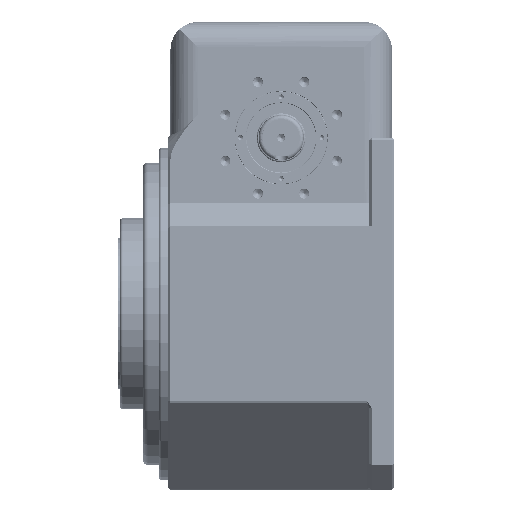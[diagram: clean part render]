
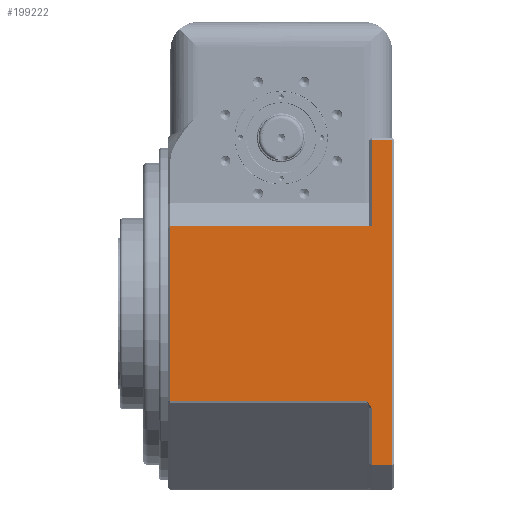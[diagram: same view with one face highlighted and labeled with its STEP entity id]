
A CAD part, left-side view. The second image highlights one B-rep face of the part: STEP entity #199222.
In plain terms, the highlighted planar face has unit normal (-1, 0, 0).
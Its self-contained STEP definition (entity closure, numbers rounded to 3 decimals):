
#2723 = DIRECTION ( 'NONE',  ( 0., -1., 0. ) ) ;
#6002 = VERTEX_POINT ( 'NONE', #79940 ) ;
#6548 = EDGE_CURVE ( 'NONE', #84875, #162055, #92885, .T. ) ;
#11295 = ORIENTED_EDGE ( 'NONE', *, *, #169668, .T. ) ;
#14139 = LINE ( 'NONE', #141672, #197038 ) ;
#15436 = CARTESIAN_POINT ( 'NONE',  ( -350., 45., -300. ) ) ;
#16903 = DIRECTION ( 'NONE',  ( 0., -1., 0. ) ) ;
#23864 = CARTESIAN_POINT ( 'NONE',  ( -350., 45., -300. ) ) ;
#25613 = VERTEX_POINT ( 'NONE', #144503 ) ;
#29790 = VERTEX_POINT ( 'NONE', #42233 ) ;
#30012 = CARTESIAN_POINT ( 'NONE',  ( -350., 450., -300. ) ) ;
#31872 = EDGE_CURVE ( 'NONE', #162055, #114772, #113097, .T. ) ;
#36855 = ORIENTED_EDGE ( 'NONE', *, *, #6548, .T. ) ;
#40520 = ORIENTED_EDGE ( 'NONE', *, *, #120721, .T. ) ;
#40880 = DIRECTION ( 'NONE',  ( 0., 0., -1. ) ) ;
#42233 = CARTESIAN_POINT ( 'NONE',  ( -350., 55., -172.929 ) ) ;
#44169 = VECTOR ( 'NONE', #73059, 1000. ) ;
#45724 = DIRECTION ( 'NONE',  ( 1., 0., 0. ) ) ;
#45827 = EDGE_CURVE ( 'NONE', #29790, #84875, #69968, .T. ) ;
#46854 = CARTESIAN_POINT ( 'NONE',  ( -350., 50., 175. ) ) ;
#47518 = DIRECTION ( 'NONE',  ( 0., 1., 0. ) ) ;
#49461 = DIRECTION ( 'NONE',  ( 0., 0., -1. ) ) ;
#50279 = CARTESIAN_POINT ( 'NONE',  ( -350., 450., -300. ) ) ;
#53614 = ORIENTED_EDGE ( 'NONE', *, *, #165462, .T. ) ;
#58122 = LINE ( 'NONE', #125373, #197051 ) ;
#66669 = CARTESIAN_POINT ( 'NONE',  ( -350., 445., 175. ) ) ;
#69968 = B_SPLINE_CURVE_WITH_KNOTS ( 'NONE', 1,
 ( #147696, #134056 ),
 .UNSPECIFIED., .F., .F.,
 ( 2, 2 ),
 ( 0., 0.017 ),
 .UNSPECIFIED. ) ;
#70667 = EDGE_CURVE ( 'NONE', #6002, #122987, #198813, .T. ) ;
#71144 = ORIENTED_EDGE ( 'NONE', *, *, #199489, .T. ) ;
#73059 = DIRECTION ( 'NONE',  ( 0., 0., -1. ) ) ;
#75641 = CARTESIAN_POINT ( 'NONE',  ( -350., 445., -172.929 ) ) ;
#79940 = CARTESIAN_POINT ( 'NONE',  ( -350., 45., 175. ) ) ;
#83733 = EDGE_CURVE ( 'NONE', #114772, #25613, #14139, .T. ) ;
#84875 = VERTEX_POINT ( 'NONE', #195135 ) ;
#88229 = VECTOR ( 'NONE', #49461, 1000. ) ;
#92885 = LINE ( 'NONE', #23864, #185472 ) ;
#94906 = VERTEX_POINT ( 'NONE', #167399 ) ;
#98070 = CARTESIAN_POINT ( 'NONE',  ( -350., 450., -172.929 ) ) ;
#107680 = PLANE ( 'NONE',  #201398 ) ;
#112902 = VECTOR ( 'NONE', #16903, 1000. ) ;
#113097 = LINE ( 'NONE', #50279, #112902 ) ;
#114772 = VERTEX_POINT ( 'NONE', #157277 ) ;
#120721 = EDGE_CURVE ( 'NONE', #163826, #29790, #130618, .T. ) ;
#122987 = VERTEX_POINT ( 'NONE', #66669 ) ;
#125373 = CARTESIAN_POINT ( 'NONE',  ( -350., 450., 345. ) ) ;
#126039 = DIRECTION ( 'NONE',  ( 0., 1., 0. ) ) ;
#130618 = LINE ( 'NONE', #98070, #179408 ) ;
#134056 = CARTESIAN_POINT ( 'NONE',  ( -350., 45., -187.071 ) ) ;
#139165 = LINE ( 'NONE', #152071, #44169 ) ;
#141672 = CARTESIAN_POINT ( 'NONE',  ( -350., 5., -300. ) ) ;
#144503 = CARTESIAN_POINT ( 'NONE',  ( -350., 5., 345. ) ) ;
#147696 = CARTESIAN_POINT ( 'NONE',  ( -350., 55., -172.929 ) ) ;
#152071 = CARTESIAN_POINT ( 'NONE',  ( -350., 445., -175. ) ) ;
#155582 = ORIENTED_EDGE ( 'NONE', *, *, #83733, .T. ) ;
#157277 = CARTESIAN_POINT ( 'NONE',  ( -350., 5., -300. ) ) ;
#161220 = ORIENTED_EDGE ( 'NONE', *, *, #45827, .T. ) ;
#162055 = VERTEX_POINT ( 'NONE', #15436 ) ;
#163826 = VERTEX_POINT ( 'NONE', #75641 ) ;
#165462 = EDGE_CURVE ( 'NONE', #25613, #94906, #58122, .T. ) ;
#166133 = LINE ( 'NONE', #173990, #88229 ) ;
#167399 = CARTESIAN_POINT ( 'NONE',  ( -350., 45., 345. ) ) ;
#168510 = FACE_OUTER_BOUND ( 'NONE', #187775, .T. ) ;
#169668 = EDGE_CURVE ( 'NONE', #122987, #163826, #139165, .T. ) ;
#171576 = DIRECTION ( 'NONE',  ( 0., 0., -1. ) ) ;
#171946 = VECTOR ( 'NONE', #47518, 1000. ) ;
#173990 = CARTESIAN_POINT ( 'NONE',  ( -350., 45., -300. ) ) ;
#179408 = VECTOR ( 'NONE', #2723, 1000. ) ;
#185472 = VECTOR ( 'NONE', #40880, 1000. ) ;
#187266 = DIRECTION ( 'NONE',  ( 0., 0., 1. ) ) ;
#187775 = EDGE_LOOP ( 'NONE', ( #40520, #161220, #36855, #188217, #155582, #53614, #71144, #188703, #11295 ) ) ;
#188217 = ORIENTED_EDGE ( 'NONE', *, *, #31872, .T. ) ;
#188703 = ORIENTED_EDGE ( 'NONE', *, *, #70667, .T. ) ;
#195135 = CARTESIAN_POINT ( 'NONE',  ( -350., 45., -187.071 ) ) ;
#197038 = VECTOR ( 'NONE', #187266, 1000. ) ;
#197051 = VECTOR ( 'NONE', #126039, 1000. ) ;
#198813 = LINE ( 'NONE', #46854, #171946 ) ;
#199222 = ADVANCED_FACE ( 'NONE', ( #168510 ), #107680, .F. ) ;
#199489 = EDGE_CURVE ( 'NONE', #94906, #6002, #166133, .T. ) ;
#201398 = AXIS2_PLACEMENT_3D ( 'NONE', #30012, #45724, #171576 ) ;
